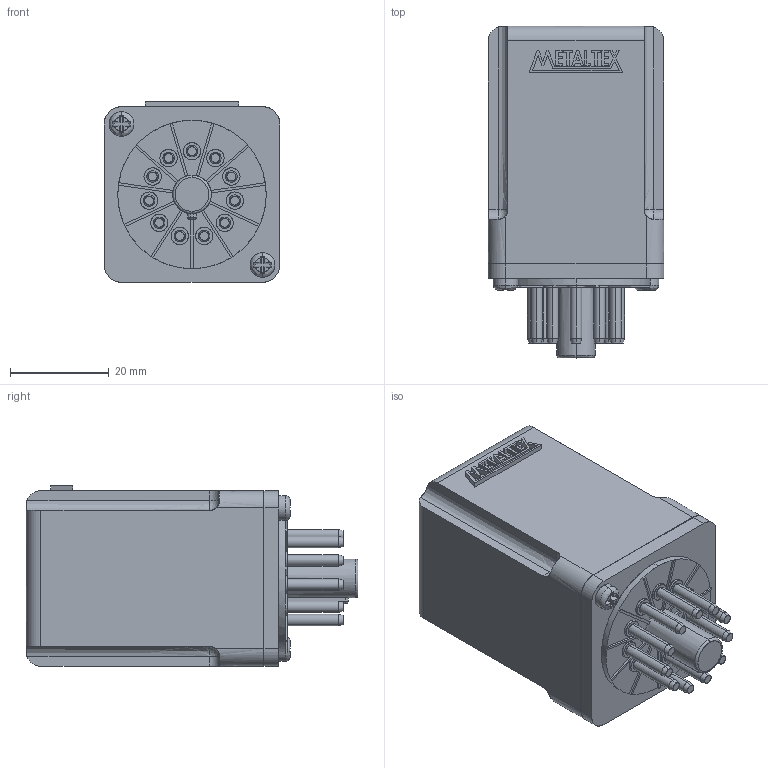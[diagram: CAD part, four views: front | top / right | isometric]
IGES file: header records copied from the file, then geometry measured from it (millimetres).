
Start section: SolidWorks IGES file using analytic representation for surfaces
Global section: file name: D:\X - Arquivos\PROEX\Empresas\P11 - METALTEX\01 - Produtos\IGES\7ª remessa\1ª etapa\OP3RC3-11.IGS; native system: SolidWorks 2012; preprocessor: SolidWorks 2012; author: Usuario; date: 190705.142850; units: millimetre
Bounding box: 35.5 x 67.1 x 36.5 mm (x, y, z)
Surface area: 13696.4 mm2 (no closed solid volume)
Topology: 0 solids, 0 shells, 342 faces, 3570 edges, 3568 vertices
Faces by surface type: bspline 231, revolution 111
